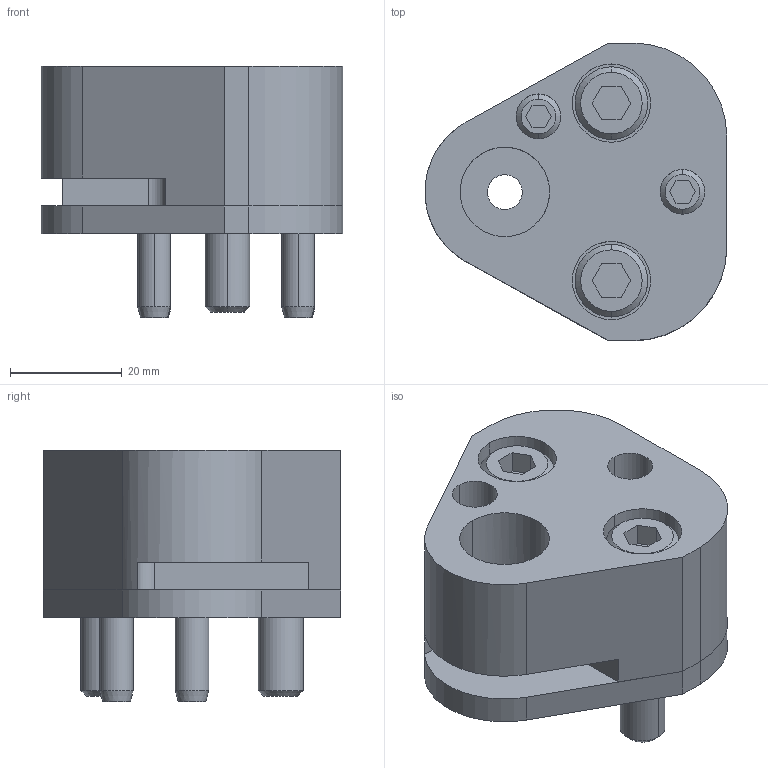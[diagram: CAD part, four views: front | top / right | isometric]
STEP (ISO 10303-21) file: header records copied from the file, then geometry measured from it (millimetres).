
FILE_DESCRIPTION(/* description */ (''),/* implementation_level */ '2;1');
FILE_NAME(/* name */ '3d_25crn-fp16_03149_r00.stp',/* time_stamp */ '2011-01-10T14:17:53+09:00',/* author */ ('MISUMI'),/* organization */ (''),/* preprocessor_version */ 'ST-DEVELOPER v11',/* originating_system */ 'UGS - NX 5.0',/* authorisation */ '');
FILE_SCHEMA (('CONFIG_CONTROL_DESIGN'));
Length unit declared in the file: millimetre
Products named in the file (1): 3d_25crn-fp16_03149_r00
Bounding box: 53.96 x 53.2 x 45 mm (x, y, z)
Volume: 56616.8 mm3; surface area: 21912.4 mm2
Topology: 8 solids, 8 shells, 156 faces, 358 edges, 231 vertices
Faces by surface type: plane 69, cylinder 61, cone 26
Entity records: 4585 total; most frequent: DIRECTION 815, CARTESIAN_POINT 805, ORIENTED_EDGE 716, EDGE_CURVE 358, AXIS2_PLACEMENT_3D 307, VERTEX_POINT 231, LINE 201, VECTOR 201
